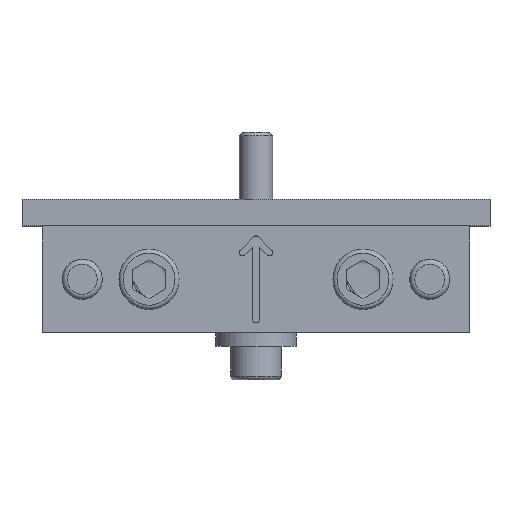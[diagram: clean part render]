
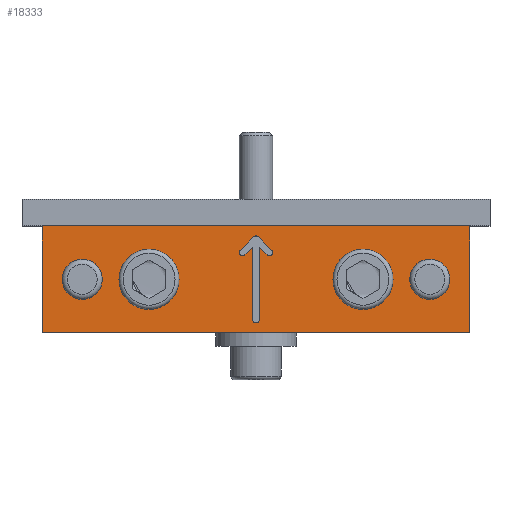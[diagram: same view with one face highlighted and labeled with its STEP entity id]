
A CAD part, top view. The second image highlights one B-rep face of the part: STEP entity #18333.
In plain terms, the highlighted planar face has unit normal (0, 0, 1).
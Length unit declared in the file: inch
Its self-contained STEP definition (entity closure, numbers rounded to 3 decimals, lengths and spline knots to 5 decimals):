
#116=CIRCLE('',#19208,0.03125);
#118=CIRCLE('',#19213,0.03125);
#120=CIRCLE('',#19217,0.03125);
#122=CIRCLE('',#19221,0.03125);
#124=CIRCLE('',#19226,0.21875);
#126=CIRCLE('',#19229,0.21875);
#128=CIRCLE('',#19232,0.1875);
#130=CIRCLE('',#19235,0.1875);
#244=FACE_BOUND('',#2464,.T.);
#245=FACE_BOUND('',#2465,.T.);
#246=FACE_BOUND('',#2466,.T.);
#247=FACE_BOUND('',#2467,.T.);
#248=FACE_BOUND('',#2468,.T.);
#1426=FACE_OUTER_BOUND('',#2463,.T.);
#2463=EDGE_LOOP('',(#16445,#16446,#16447,#16448));
#2464=EDGE_LOOP('',(#16449,#16450,#16451,#16452,#16453,#16454,#16455,#16456,
#16457,#16458));
#2465=EDGE_LOOP('',(#16459));
#2466=EDGE_LOOP('',(#16460));
#2467=EDGE_LOOP('',(#16461));
#2468=EDGE_LOOP('',(#16462));
#4463=LINE('',#31942,#6494);
#4469=LINE('',#31977,#6500);
#4473=LINE('',#31989,#6504);
#4476=LINE('',#31995,#6507);
#4480=LINE('',#32007,#6511);
#4484=LINE('',#32019,#6515);
#4488=LINE('',#32029,#6519);
#4494=LINE('',#32061,#6525);
#4497=LINE('',#32068,#6528);
#4500=LINE('',#32073,#6531);
#6494=VECTOR('',#22512,0.3937);
#6500=VECTOR('',#22562,0.3937);
#6504=VECTOR('',#22574,0.3937);
#6507=VECTOR('',#22579,0.3937);
#6511=VECTOR('',#22591,0.3937);
#6515=VECTOR('',#22603,0.3937);
#6519=VECTOR('',#22615,0.3937);
#6525=VECTOR('',#22653,0.3937);
#6528=VECTOR('',#22660,0.3937);
#6531=VECTOR('',#22665,0.3937);
#8737=VERTEX_POINT('',#31940);
#8738=VERTEX_POINT('',#31941);
#8744=VERTEX_POINT('',#31974);
#8745=VERTEX_POINT('',#31976);
#8747=VERTEX_POINT('',#31982);
#8749=VERTEX_POINT('',#31988);
#8751=VERTEX_POINT('',#31994);
#8753=VERTEX_POINT('',#32000);
#8755=VERTEX_POINT('',#32006);
#8757=VERTEX_POINT('',#32012);
#8759=VERTEX_POINT('',#32018);
#8761=VERTEX_POINT('',#32024);
#8763=VERTEX_POINT('',#32034);
#8765=VERTEX_POINT('',#32040);
#8767=VERTEX_POINT('',#32046);
#8769=VERTEX_POINT('',#32052);
#8771=VERTEX_POINT('',#32060);
#8773=VERTEX_POINT('',#32067);
#11296=EDGE_CURVE('',#8737,#8738,#4463,.T.);
#11303=EDGE_CURVE('',#8745,#8744,#4469,.T.);
#11306=EDGE_CURVE('',#8747,#8745,#116,.T.);
#11309=EDGE_CURVE('',#8749,#8747,#4473,.T.);
#11312=EDGE_CURVE('',#8751,#8749,#4476,.T.);
#11315=EDGE_CURVE('',#8753,#8751,#118,.T.);
#11318=EDGE_CURVE('',#8755,#8753,#4480,.T.);
#11321=EDGE_CURVE('',#8757,#8755,#120,.T.);
#11324=EDGE_CURVE('',#8759,#8757,#4484,.T.);
#11327=EDGE_CURVE('',#8761,#8759,#122,.T.);
#11330=EDGE_CURVE('',#8744,#8761,#4488,.T.);
#11333=EDGE_CURVE('',#8763,#8763,#124,.T.);
#11336=EDGE_CURVE('',#8765,#8765,#126,.T.);
#11339=EDGE_CURVE('',#8767,#8767,#128,.T.);
#11342=EDGE_CURVE('',#8769,#8769,#130,.T.);
#11345=EDGE_CURVE('',#8771,#8737,#4494,.T.);
#11348=EDGE_CURVE('',#8738,#8773,#4497,.T.);
#11351=EDGE_CURVE('',#8773,#8771,#4500,.T.);
#16445=ORIENTED_EDGE('',*,*,#11345,.F.);
#16446=ORIENTED_EDGE('',*,*,#11351,.F.);
#16447=ORIENTED_EDGE('',*,*,#11348,.F.);
#16448=ORIENTED_EDGE('',*,*,#11296,.F.);
#16449=ORIENTED_EDGE('',*,*,#11303,.T.);
#16450=ORIENTED_EDGE('',*,*,#11330,.T.);
#16451=ORIENTED_EDGE('',*,*,#11327,.T.);
#16452=ORIENTED_EDGE('',*,*,#11324,.T.);
#16453=ORIENTED_EDGE('',*,*,#11321,.T.);
#16454=ORIENTED_EDGE('',*,*,#11318,.T.);
#16455=ORIENTED_EDGE('',*,*,#11315,.T.);
#16456=ORIENTED_EDGE('',*,*,#11312,.T.);
#16457=ORIENTED_EDGE('',*,*,#11309,.T.);
#16458=ORIENTED_EDGE('',*,*,#11306,.T.);
#16459=ORIENTED_EDGE('',*,*,#11333,.T.);
#16460=ORIENTED_EDGE('',*,*,#11336,.T.);
#16461=ORIENTED_EDGE('',*,*,#11339,.T.);
#16462=ORIENTED_EDGE('',*,*,#11342,.T.);
#17331=PLANE('',#19242);
#18333=ADVANCED_FACE('',(#1426,#244,#245,#246,#247,#248),#17331,.T.);
#19208=AXIS2_PLACEMENT_3D('',#31983,#22568,#22569);
#19213=AXIS2_PLACEMENT_3D('',#32001,#22585,#22586);
#19217=AXIS2_PLACEMENT_3D('',#32013,#22597,#22598);
#19221=AXIS2_PLACEMENT_3D('',#32025,#22609,#22610);
#19226=AXIS2_PLACEMENT_3D('',#32036,#22623,#22624);
#19229=AXIS2_PLACEMENT_3D('',#32042,#22630,#22631);
#19232=AXIS2_PLACEMENT_3D('',#32048,#22637,#22638);
#19235=AXIS2_PLACEMENT_3D('',#32054,#22644,#22645);
#19242=AXIS2_PLACEMENT_3D('',#32075,#22667,#22668);
#22512=DIRECTION('',(-1.,0.,0.));
#22562=DIRECTION('',(0.,1.,0.));
#22568=DIRECTION('center_axis',(0.,0.,-1.));
#22569=DIRECTION('ref_axis',(0.,1.,0.));
#22574=DIRECTION('',(0.,-1.,0.));
#22579=DIRECTION('',(-0.707,0.707,0.));
#22585=DIRECTION('center_axis',(0.,0.,-1.));
#22586=DIRECTION('ref_axis',(-0.707,0.707,0.));
#22591=DIRECTION('',(0.707,-0.707,0.));
#22597=DIRECTION('center_axis',(0.,0.,-1.));
#22598=DIRECTION('ref_axis',(-0.707,-0.707,0.));
#22603=DIRECTION('',(0.707,0.707,0.));
#22609=DIRECTION('center_axis',(0.,0.,-1.));
#22610=DIRECTION('ref_axis',(0.707,0.707,0.));
#22615=DIRECTION('',(-0.707,-0.707,0.));
#22623=DIRECTION('center_axis',(0.,0.,-1.));
#22624=DIRECTION('ref_axis',(-1.,0.,0.));
#22630=DIRECTION('center_axis',(0.,0.,-1.));
#22631=DIRECTION('ref_axis',(-1.,0.,0.));
#22637=DIRECTION('center_axis',(0.,0.,-1.));
#22638=DIRECTION('ref_axis',(-1.,0.,0.));
#22644=DIRECTION('center_axis',(0.,0.,-1.));
#22645=DIRECTION('ref_axis',(-1.,0.,0.));
#22653=DIRECTION('',(0.,-1.,0.));
#22660=DIRECTION('',(0.,1.,0.));
#22665=DIRECTION('',(1.,0.,0.));
#22667=DIRECTION('center_axis',(0.,0.,1.));
#22668=DIRECTION('ref_axis',(1.,0.,0.));
#31940=CARTESIAN_POINT('',(3.625,-0.5,0.75));
#31941=CARTESIAN_POINT('',(-0.375,-0.5,0.75));
#31942=CARTESIAN_POINT('',(3.625,-0.5,0.75));
#31974=CARTESIAN_POINT('',(1.5935,0.29931,0.75));
#31976=CARTESIAN_POINT('',(1.5935,-0.375,0.75));
#31977=CARTESIAN_POINT('',(1.5935,0.14965,0.75));
#31982=CARTESIAN_POINT('',(1.656,-0.375,0.75));
#31983=CARTESIAN_POINT('Origin',(1.62475,-0.375,0.75));
#31988=CARTESIAN_POINT('',(1.656,0.29981,0.75));
#31989=CARTESIAN_POINT('',(1.656,-0.1875,0.75));
#31994=CARTESIAN_POINT('',(1.7279,0.2279,0.75));
#31995=CARTESIAN_POINT('',(1.7232,0.2326,0.75));
#32000=CARTESIAN_POINT('',(1.7721,0.2721,0.75));
#32001=CARTESIAN_POINT('Origin',(1.75,0.25,0.75));
#32006=CARTESIAN_POINT('',(1.6471,0.3971,0.75));
#32007=CARTESIAN_POINT('',(1.80335,0.24085,0.75));
#32012=CARTESIAN_POINT('',(1.6029,0.3971,0.75));
#32013=CARTESIAN_POINT('Origin',(1.625,0.375,0.75));
#32018=CARTESIAN_POINT('',(1.4779,0.2721,0.75));
#32019=CARTESIAN_POINT('',(1.50915,0.30335,0.75));
#32024=CARTESIAN_POINT('',(1.5221,0.2279,0.75));
#32025=CARTESIAN_POINT('Origin',(1.5,0.25,0.75));
#32029=CARTESIAN_POINT('',(1.49085,0.19665,0.75));
#32034=CARTESIAN_POINT('',(2.84375,0.,0.75));
#32036=CARTESIAN_POINT('Origin',(2.625,0.,0.75));
#32040=CARTESIAN_POINT('',(0.84375,0.,0.75));
#32042=CARTESIAN_POINT('Origin',(0.625,0.,0.75));
#32046=CARTESIAN_POINT('',(3.4375,0.,0.75));
#32048=CARTESIAN_POINT('Origin',(3.25,0.,0.75));
#32052=CARTESIAN_POINT('',(0.1875,0.,0.75));
#32054=CARTESIAN_POINT('Origin',(0.,0.,0.75));
#32060=CARTESIAN_POINT('',(3.625,0.5,0.75));
#32061=CARTESIAN_POINT('',(3.625,0.5,0.75));
#32067=CARTESIAN_POINT('',(-0.375,0.5,0.75));
#32068=CARTESIAN_POINT('',(-0.375,-0.5,0.75));
#32073=CARTESIAN_POINT('',(-0.375,0.5,0.75));
#32075=CARTESIAN_POINT('Origin',(1.625,0.,0.75));
